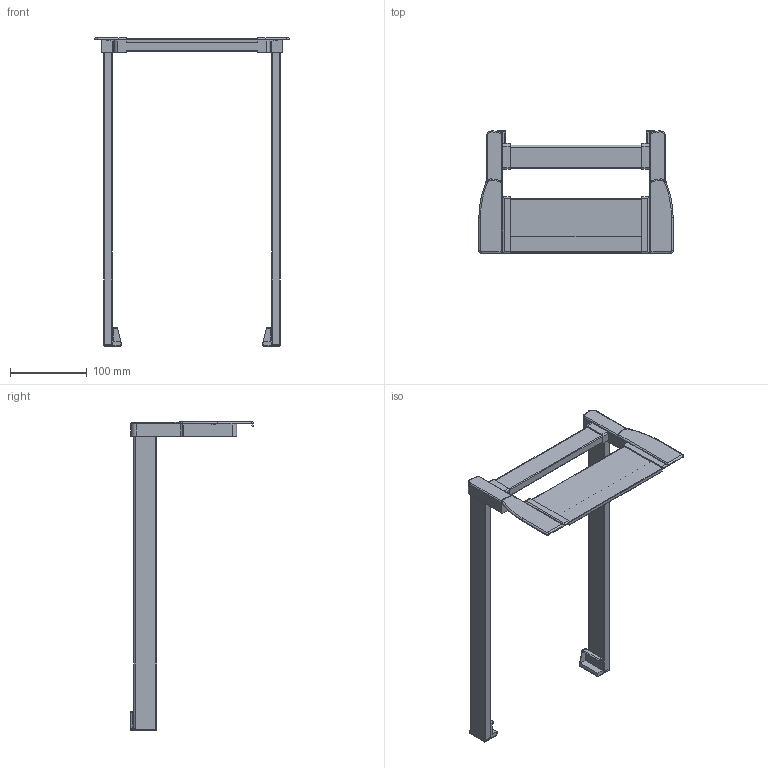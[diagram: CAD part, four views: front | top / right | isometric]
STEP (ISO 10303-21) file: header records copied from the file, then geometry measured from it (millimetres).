
FILE_DESCRIPTION (( 'STEP AP214' ), '1' );
FILE_NAME ('1_P620_NL 400_KAB 300_19er KS_.step', '2009-09-16T06:29:33', ( 'Waldinger Reinhard' ), ( 'Grass GmbH' ), 'SwSTEP 2.0', 'SolidWorks 2009', '' );
FILE_SCHEMA (( 'AUTOMOTIVE_DESIGN' ));
Length unit declared in the file: millimetre
Products named in the file (1): 1_P620_NL 400_KAB 300_19er KS_
Bounding box: 253.6 x 160.5 x 402.8 mm (x, y, z)
Volume: 567696.2 mm3; surface area: 139808.7 mm2
Topology: 1 solids, 1 shells, 218 faces, 576 edges, 364 vertices
Faces by surface type: plane 97, cylinder 89, torus 28, sphere 2, bspline 2
Entity records: 6974 total; most frequent: CARTESIAN_POINT 1341, DIRECTION 1192, ORIENTED_EDGE 1148, EDGE_CURVE 574, AXIS2_PLACEMENT_3D 431, VERTEX_POINT 364, VECTOR 330, LINE 330
